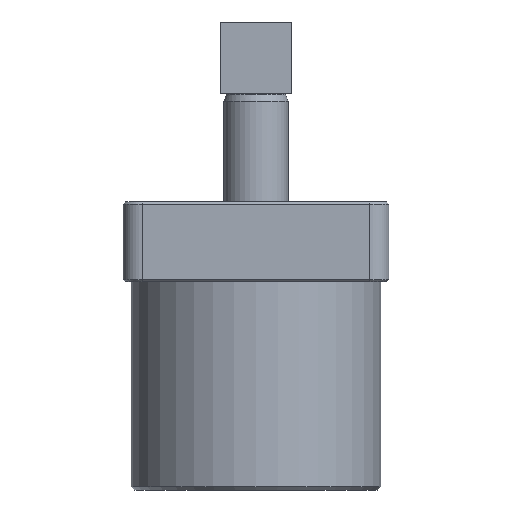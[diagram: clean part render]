
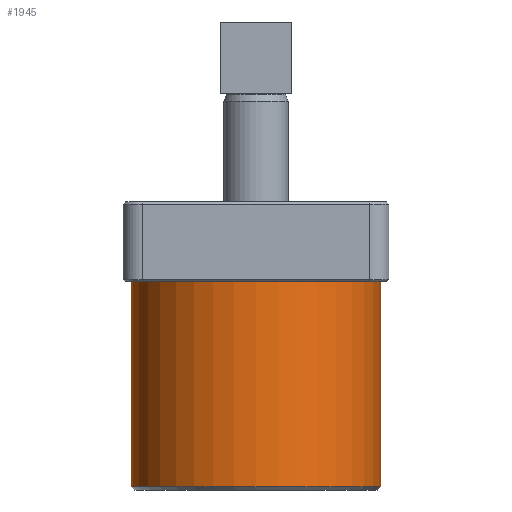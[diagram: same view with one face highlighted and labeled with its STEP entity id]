
A CAD part, left-side view. The second image highlights one B-rep face of the part: STEP entity #1945.
In plain terms, the highlighted cylindrical face has radius 39 mm (diameter 78 mm), a full revolution.
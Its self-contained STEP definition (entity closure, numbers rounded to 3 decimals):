
#252=CYLINDRICAL_SURFACE('',#2121,39.);
#414=ORIENTED_EDGE('',*,*,#769,.T.);
#415=ORIENTED_EDGE('',*,*,#752,.F.);
#752=EDGE_CURVE('',#935,#935,#1056,.T.);
#769=EDGE_CURVE('',#952,#952,#1069,.T.);
#935=VERTEX_POINT('',#2830);
#952=VERTEX_POINT('',#2874);
#1056=CIRCLE('',#2099,39.);
#1069=CIRCLE('',#2122,39.);
#1171=EDGE_LOOP('',(#414));
#1172=EDGE_LOOP('',(#415));
#1349=FACE_BOUND('',#1171,.T.);
#1350=FACE_BOUND('',#1172,.T.);
#1945=ADVANCED_FACE('',(#1349,#1350),#252,.T.);
#2099=AXIS2_PLACEMENT_3D('',#2829,#2364,#2365);
#2121=AXIS2_PLACEMENT_3D('',#2872,#2412,#2413);
#2122=AXIS2_PLACEMENT_3D('',#2873,#2414,#2415);
#2364=DIRECTION('',(0.,0.,1.));
#2365=DIRECTION('',(0.,-1.,0.));
#2412=DIRECTION('',(0.,0.,1.));
#2413=DIRECTION('',(0.,-1.,0.));
#2414=DIRECTION('',(0.,0.,1.));
#2415=DIRECTION('',(1.,0.,0.));
#2829=CARTESIAN_POINT('',(0.,43.,-8.1));
#2830=CARTESIAN_POINT('',(0.,4.,-8.1));
#2872=CARTESIAN_POINT('',(0.,43.,-73.1));
#2873=CARTESIAN_POINT('',(0.,43.,-72.1));
#2874=CARTESIAN_POINT('',(39.,43.,-72.1));
